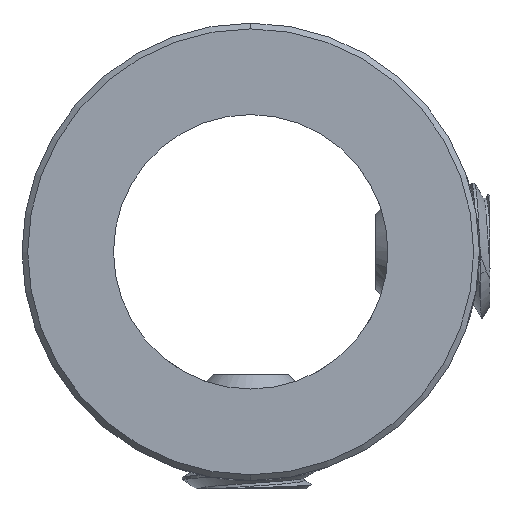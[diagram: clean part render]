
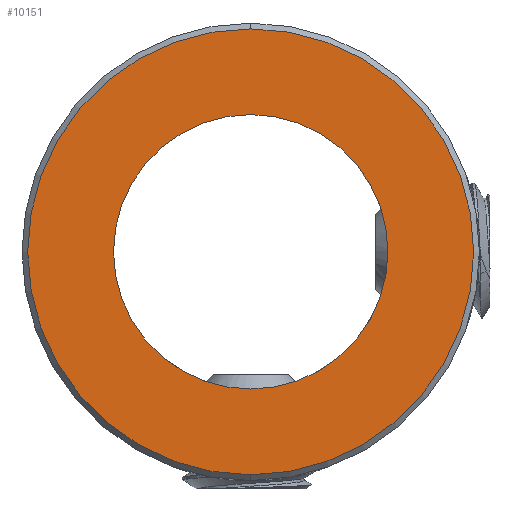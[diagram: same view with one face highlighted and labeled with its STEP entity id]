
A CAD part, front view. The second image highlights one B-rep face of the part: STEP entity #10151.
In plain terms, the highlighted planar face has unit normal (0, -1, 0).
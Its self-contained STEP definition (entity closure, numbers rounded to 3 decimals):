
#396 = EDGE_CURVE ( 'NONE', #2994, #3444, #6274, .T. ) ;
#699 = DIRECTION ( 'NONE',  ( 0., 0., 1. ) ) ;
#791 = DIRECTION ( 'NONE',  ( 0., 1., 0. ) ) ;
#975 = CIRCLE ( 'NONE', #5701, 6. ) ;
#1174 = FACE_OUTER_BOUND ( 'NONE', #15518, .T. ) ;
#1425 = CARTESIAN_POINT ( 'NONE',  ( 0., -4.5, 0. ) ) ;
#1459 = VERTEX_POINT ( 'NONE', #13654 ) ;
#1728 = CARTESIAN_POINT ( 'NONE',  ( 0., -4.5, 6. ) ) ;
#2994 = VERTEX_POINT ( 'NONE', #16998 ) ;
#3222 = DIRECTION ( 'NONE',  ( 0., -1., 0. ) ) ;
#3444 = VERTEX_POINT ( 'NONE', #1728 ) ;
#4812 = CIRCLE ( 'NONE', #6187, 9.75 ) ;
#5604 = ORIENTED_EDGE ( 'NONE', *, *, #15944, .T. ) ;
#5701 = AXIS2_PLACEMENT_3D ( 'NONE', #15508, #8750, #7267 ) ;
#5967 = CARTESIAN_POINT ( 'NONE',  ( 0., -4.5, 0. ) ) ;
#6187 = AXIS2_PLACEMENT_3D ( 'NONE', #8755, #3222, #699 ) ;
#6200 = ORIENTED_EDGE ( 'NONE', *, *, #396, .T. ) ;
#6274 = CIRCLE ( 'NONE', #8520, 6. ) ;
#6848 = EDGE_CURVE ( 'NONE', #3444, #2994, #975, .T. ) ;
#7267 = DIRECTION ( 'NONE',  ( 0., 0., 1. ) ) ;
#8097 = FACE_BOUND ( 'NONE', #9542, .T. ) ;
#8449 = DIRECTION ( 'NONE',  ( 0., 0., 1. ) ) ;
#8520 = AXIS2_PLACEMENT_3D ( 'NONE', #5967, #11655, #12859 ) ;
#8750 = DIRECTION ( 'NONE',  ( 0., 1., 0. ) ) ;
#8755 = CARTESIAN_POINT ( 'NONE',  ( 0., -4.5, 0. ) ) ;
#8990 = CARTESIAN_POINT ( 'NONE',  ( 0., -4.5, 9.75 ) ) ;
#9152 = CARTESIAN_POINT ( 'NONE',  ( 0., -4.5, 0. ) ) ;
#9333 = ORIENTED_EDGE ( 'NONE', *, *, #6848, .T. ) ;
#9542 = EDGE_LOOP ( 'NONE', ( #6200, #9333 ) ) ;
#10151 = ADVANCED_FACE ( 'NONE', ( #1174, #8097 ), #13301, .F. ) ;
#10395 = ORIENTED_EDGE ( 'NONE', *, *, #17637, .T. ) ;
#10978 = DIRECTION ( 'NONE',  ( 0., -1., 0. ) ) ;
#11492 = AXIS2_PLACEMENT_3D ( 'NONE', #9152, #791, #11795 ) ;
#11655 = DIRECTION ( 'NONE',  ( 0., 1., 0. ) ) ;
#11795 = DIRECTION ( 'NONE',  ( 0., 0., 1. ) ) ;
#12859 = DIRECTION ( 'NONE',  ( 0., 0., 1. ) ) ;
#13135 = AXIS2_PLACEMENT_3D ( 'NONE', #1425, #10978, #8449 ) ;
#13301 = PLANE ( 'NONE',  #11492 ) ;
#13654 = CARTESIAN_POINT ( 'NONE',  ( 0., -4.5, -9.75 ) ) ;
#14331 = CIRCLE ( 'NONE', #13135, 9.75 ) ;
#15508 = CARTESIAN_POINT ( 'NONE',  ( 0., -4.5, 0. ) ) ;
#15518 = EDGE_LOOP ( 'NONE', ( #5604, #10395 ) ) ;
#15944 = EDGE_CURVE ( 'NONE', #16462, #1459, #14331, .T. ) ;
#16462 = VERTEX_POINT ( 'NONE', #8990 ) ;
#16998 = CARTESIAN_POINT ( 'NONE',  ( 0., -4.5, -6. ) ) ;
#17637 = EDGE_CURVE ( 'NONE', #1459, #16462, #4812, .T. ) ;
